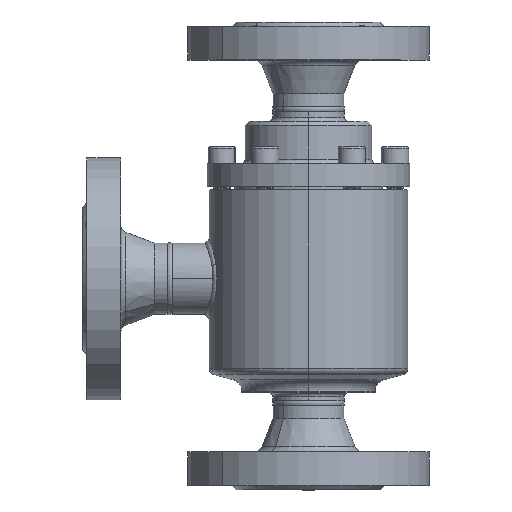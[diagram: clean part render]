
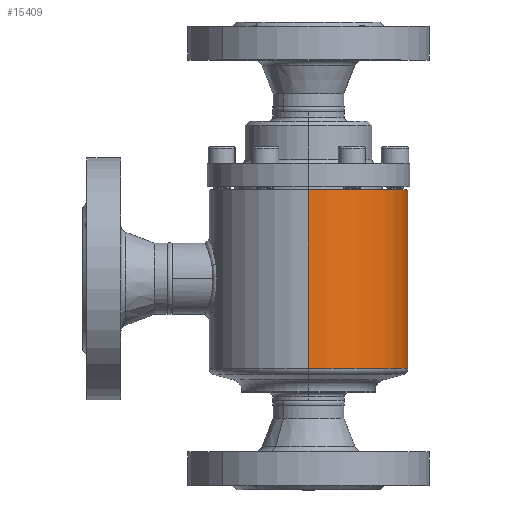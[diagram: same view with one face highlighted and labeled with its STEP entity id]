
A CAD part, top view. The second image highlights one B-rep face of the part: STEP entity #15409.
In plain terms, the highlighted cylindrical face has radius 47 mm (diameter 94 mm), a partial arc.
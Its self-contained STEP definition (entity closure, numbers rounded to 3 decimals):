
#16447 = ORIENTED_EDGE ( 'NONE', *, *, #15748, .T. ) ;
#17418 = ORIENTED_EDGE ( 'NONE', *, *, #18145, .T. ) ;
#17727 = VERTEX_POINT ( 'NONE', #13082 ) ;
#18145 = EDGE_CURVE ( 'NONE', #17727, #5920, #13514, .T. ) ;
#19775 = LINE ( 'NONE', #19776, #19777 ) ;
#19776 = CARTESIAN_POINT ( 'NONE',  ( 0., 76.795, 47. ) ) ;
#19777 = VECTOR ( 'NONE', #19778, 1000. ) ;
#19778 = DIRECTION ( 'NONE',  ( 0., 1., 0. ) ) ;
#4835 = CARTESIAN_POINT ( 'NONE',  ( 0., 80.527, 47. ) ) ;
#5019 = CIRCLE ( 'NONE', #5021, 47. ) ;
#5021 = AXIS2_PLACEMENT_3D ( 'NONE', #5022, #5023, #5024 ) ;
#5022 = CARTESIAN_POINT ( 'NONE',  ( 0., 80.527, 0. ) ) ;
#5023 = DIRECTION ( 'NONE',  ( 0., 1., 0. ) ) ;
#5024 = DIRECTION ( 'NONE',  ( 0., 0., 1. ) ) ;
#5920 = VERTEX_POINT ( 'NONE', #6653 ) ;
#6548 = FACE_OUTER_BOUND ( 'NONE', #15165, .T. ) ;
#6549 = CYLINDRICAL_SURFACE ( 'NONE', #6550, 47. ) ;
#6550 = AXIS2_PLACEMENT_3D ( 'NONE', #6551, #6552, #6553 ) ;
#6551 = CARTESIAN_POINT ( 'NONE',  ( 0., 76.795, 0. ) ) ;
#6552 = DIRECTION ( 'NONE',  ( 0., 1., 0. ) ) ;
#6553 = DIRECTION ( 'NONE',  ( 0., 0., 1. ) ) ;
#6554 = CARTESIAN_POINT ( 'NONE',  ( 0., 80.527, -47. ) ) ;
#6653 = CARTESIAN_POINT ( 'NONE',  ( 0., -4.017, -47. ) ) ;
#6871 = LINE ( 'NONE', #6874, #6875 ) ;
#6874 = CARTESIAN_POINT ( 'NONE',  ( 0., 76.795, -47. ) ) ;
#6875 = VECTOR ( 'NONE', #6876, 1000. ) ;
#6876 = DIRECTION ( 'NONE',  ( 0., 1., 0. ) ) ;
#13082 = CARTESIAN_POINT ( 'NONE',  ( 0., -4.017, 47. ) ) ;
#13242 = EDGE_CURVE ( 'NONE', #17727, #14132, #19775, .T. ) ;
#13514 = CIRCLE ( 'NONE', #13515, 47. ) ;
#13515 = AXIS2_PLACEMENT_3D ( 'NONE', #13516, #13517, #13518 ) ;
#13516 = CARTESIAN_POINT ( 'NONE',  ( 0., -4.017, 0. ) ) ;
#13517 = DIRECTION ( 'NONE',  ( 0., 1., 0. ) ) ;
#13518 = DIRECTION ( 'NONE',  ( 0., 0., 1. ) ) ;
#13612 = ORIENTED_EDGE ( 'NONE', *, *, #13242, .F. ) ;
#14132 = VERTEX_POINT ( 'NONE', #4835 ) ;
#14348 = EDGE_CURVE ( 'NONE', #14132, #15410, #5019, .T. ) ;
#14721 = ORIENTED_EDGE ( 'NONE', *, *, #14348, .F. ) ;
#15165 = EDGE_LOOP ( 'NONE', ( #17418, #16447, #14721, #13612 ) ) ;
#15409 = ADVANCED_FACE ( 'NONE', ( #6548 ), #6549, .T. ) ;
#15410 = VERTEX_POINT ( 'NONE', #6554 ) ;
#15748 = EDGE_CURVE ( 'NONE', #5920, #15410, #6871, .T. ) ;
